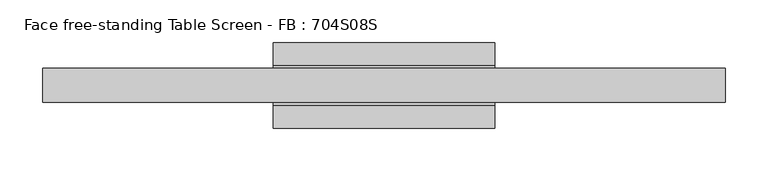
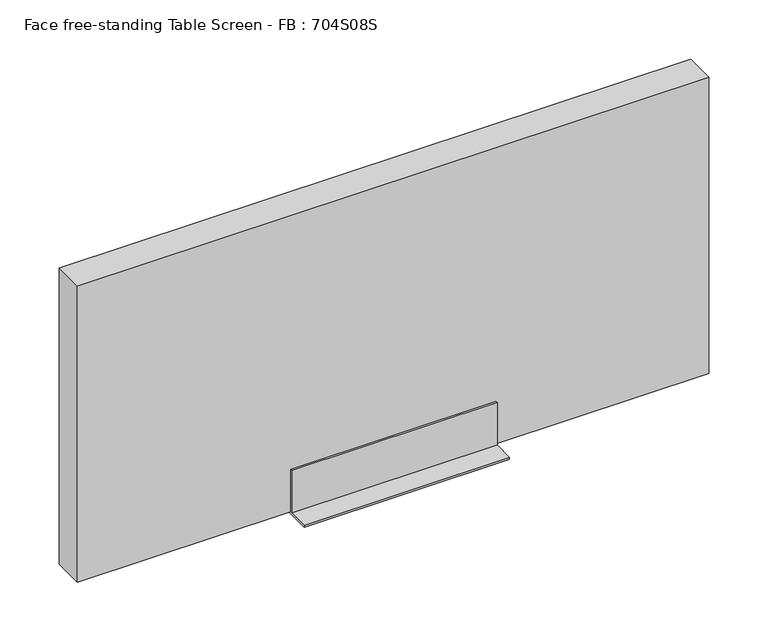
"""IFC4 building model written with IfcOpenShell, lengths in millimetres: furniture geometry, Face free-standing Table Screen - FB : 704S08S."""

from ifc_helpers import new_model, si_unit, frame, origin, place, context, project, spatial, polyline, outline, extrude, source, transform, mapped, element, save


def face_free_standing_table_screen_fb_704s08s_dd9e2d3d(model_context):
    return source(origin(), model_context, "Body", "SweptSolid", [
        extrude(outline(polyline([(-50.0, 3.0), (-22.999995, 3.0), (-23.0, 60.0), (-20.0, 60.0), (-20.0, 3.0), (20.0, 3.0), (20.0, 60.0), (23.0, 60.0), (22.999995, 3.0), (50.0, 3.0), (50.0, 0.0), (-50.0, 0.0), (-50.0, 3.0)])), frame((-130.0, 0.0, 0.0), z_axis=(1.0, 0.0, 0.0), x_axis=(0.0, 1.0, 0.0)), (0.0, 0.0, 1.0), 260.0),
        extrude(outline(polyline([(400.0, -20.0), (-400.0, -20.0), (-400.0, 20.0), (400.0, 20.0), (400.0, -20.0)])), frame((0.0, 0.0, 3.0), z_axis=(0.0, 0.0, 1.0), x_axis=(1.0, 0.0, 0.0)), (0.0, 0.0, 1.0), 397.0),
    ])


if __name__ == "__main__":
    model = new_model("IFC4")
    model_context = context("Model", 3, world=origin())
    ifc_project = project(units=[si_unit("LENGTHUNIT", "METRE", prefix="MILLI")], contexts=[model_context])
    site = spatial("IfcSite", under=ifc_project)
    building = spatial("IfcBuilding", under=site)
    placement = place(None, origin())
    face_free_standing_table_screen_fb_704s08s_shape = face_free_standing_table_screen_fb_704s08s_dd9e2d3d(model_context)
    element("IfcFurniture", 1, ObjectType="Face free-standing Table Screen - FB : 704S08S", at=placement, inside=building, context=model_context, shape_type="MappedRepresentation", body=[
        mapped(face_free_standing_table_screen_fb_704s08s_shape, transform((0.0, 0.0, 0.0), x_axis=(1.0, 0.0, 0.0), y_axis=(0.0, 1.0, 0.0), z_axis=(0.0, 0.0, 1.0))),
    ])
    save(model, "model.ifc")
